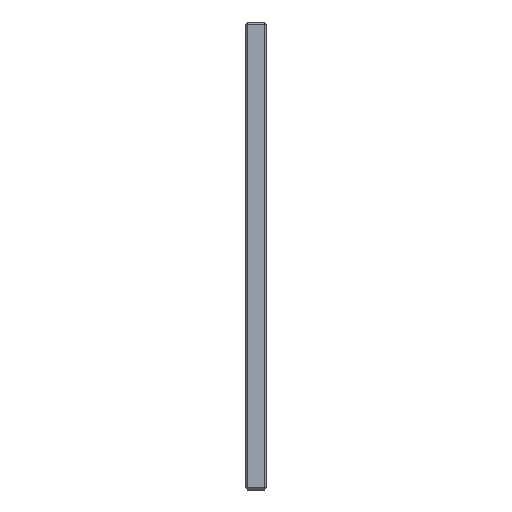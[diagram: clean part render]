
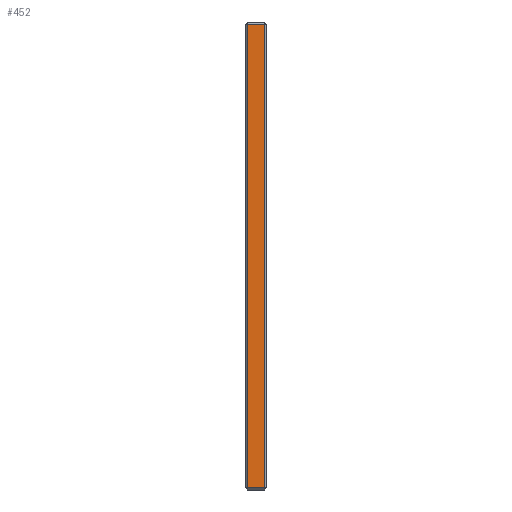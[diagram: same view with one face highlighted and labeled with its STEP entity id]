
A CAD part, left-side view. The second image highlights one B-rep face of the part: STEP entity #452.
In plain terms, the highlighted planar face has unit normal (-1, 0, 0).
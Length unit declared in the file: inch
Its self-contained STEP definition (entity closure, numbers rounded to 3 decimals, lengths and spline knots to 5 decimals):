
#10 = ORIENTED_EDGE ( 'NONE', *, *, #776, .T. ) ;
#22 = DIRECTION ( 'NONE',  ( 0., 1., 0. ) ) ;
#33 = DIRECTION ( 'NONE',  ( 0., 0., -1. ) ) ;
#36 = EDGE_CURVE ( 'NONE', #1508, #852, #1637, .T. ) ;
#108 = PLANE ( 'NONE',  #344 ) ;
#247 = CARTESIAN_POINT ( 'NONE',  ( -5.9375, 0.5, -5.375 ) ) ;
#344 = AXIS2_PLACEMENT_3D ( 'NONE', #247, #1454, #504 ) ;
#374 = LINE ( 'NONE', #814, #1519 ) ;
#378 = FACE_OUTER_BOUND ( 'NONE', #1470, .T. ) ;
#385 = CARTESIAN_POINT ( 'NONE',  ( -5.9375, 0.05, -5.375 ) ) ;
#452 = ADVANCED_FACE ( 'Placement Plane', ( #378 ), #108, .F. ) ;
#504 = DIRECTION ( 'NONE',  ( 0., 0., -1. ) ) ;
#583 = ORIENTED_EDGE ( 'NONE', *, *, #970, .T. ) ;
#626 = CARTESIAN_POINT ( 'NONE',  ( -5.9375, 0.05, -5.325 ) ) ;
#776 = EDGE_CURVE ( 'NONE', #852, #1381, #374, .T. ) ;
#785 = LINE ( 'NONE', #385, #1260 ) ;
#814 = CARTESIAN_POINT ( 'NONE',  ( -5.9375, 0.45, -5.375 ) ) ;
#852 = VERTEX_POINT ( 'NONE', #1668 ) ;
#970 = EDGE_CURVE ( 'NONE', #1381, #1758, #1157, .T. ) ;
#1028 = DIRECTION ( 'NONE',  ( 0., -1., 0. ) ) ;
#1157 = LINE ( 'NONE', #1700, #1619 ) ;
#1180 = ORIENTED_EDGE ( 'NONE', *, *, #1318, .T. ) ;
#1220 = CARTESIAN_POINT ( 'NONE',  ( -5.9375, 0.45, -5.325 ) ) ;
#1237 = CARTESIAN_POINT ( 'NONE',  ( -5.9375, 0.5, 5.325 ) ) ;
#1260 = VECTOR ( 'NONE', #1613, 39.37008 ) ;
#1318 = EDGE_CURVE ( 'NONE', #1758, #1508, #785, .T. ) ;
#1319 = VECTOR ( 'NONE', #22, 39.37008 ) ;
#1361 = ORIENTED_EDGE ( 'NONE', *, *, #36, .T. ) ;
#1381 = VERTEX_POINT ( 'NONE', #1220 ) ;
#1454 = DIRECTION ( 'NONE',  ( 1., 0., 0. ) ) ;
#1470 = EDGE_LOOP ( 'NONE', ( #10, #583, #1180, #1361 ) ) ;
#1508 = VERTEX_POINT ( 'NONE', #1528 ) ;
#1519 = VECTOR ( 'NONE', #33, 39.37008 ) ;
#1528 = CARTESIAN_POINT ( 'NONE',  ( -5.9375, 0.05, 5.325 ) ) ;
#1613 = DIRECTION ( 'NONE',  ( 0., 0., 1. ) ) ;
#1619 = VECTOR ( 'NONE', #1028, 39.37008 ) ;
#1637 = LINE ( 'NONE', #1237, #1319 ) ;
#1668 = CARTESIAN_POINT ( 'NONE',  ( -5.9375, 0.45, 5.325 ) ) ;
#1700 = CARTESIAN_POINT ( 'NONE',  ( -5.9375, 0.5, -5.325 ) ) ;
#1758 = VERTEX_POINT ( 'NONE', #626 ) ;
